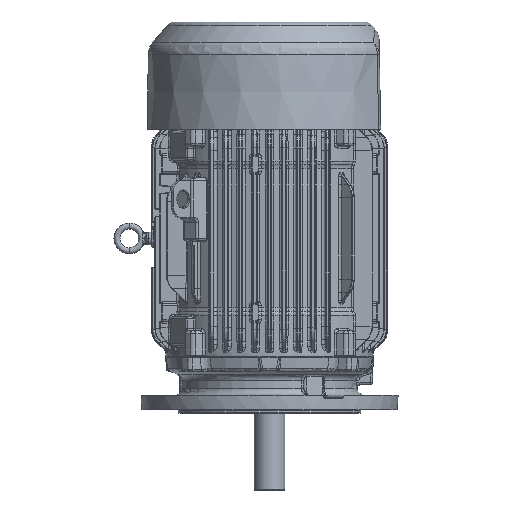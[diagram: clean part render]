
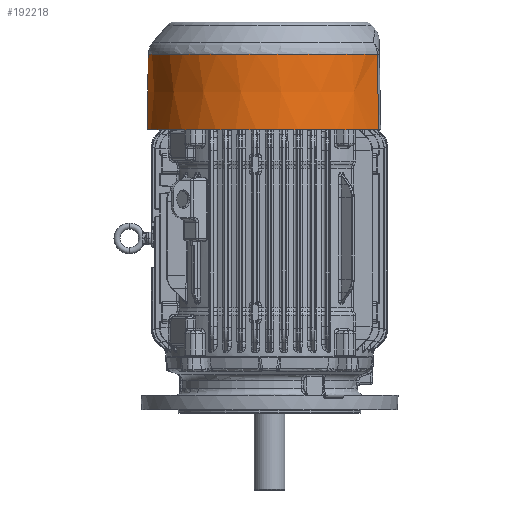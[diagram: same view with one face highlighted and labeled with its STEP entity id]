
A CAD part, left-side view. The second image highlights one B-rep face of the part: STEP entity #192218.
In plain terms, the highlighted conical face has half-angle 1 degrees and reference radius 167.365 mm.
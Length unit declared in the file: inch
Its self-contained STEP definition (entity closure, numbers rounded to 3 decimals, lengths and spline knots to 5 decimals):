
#187761=CARTESIAN_POINT('',(-3.03403,-5.88897,0.));
#187773=CARTESIAN_POINT('',(3.03403,-5.88897,0.));
#187779=CARTESIAN_POINT('',(-3.01954,-5.81673,
-4.05866));
#187780=CARTESIAN_POINT('',(-3.02114,-5.82466,
-3.61342));
#187781=CARTESIAN_POINT('',(-3.02432,-5.84054,
-2.72004));
#187782=CARTESIAN_POINT('',(-3.02887,-5.86323,
-1.44622));
#187783=CARTESIAN_POINT('',(-3.03228,-5.88023,
-0.49136));
#187784=CARTESIAN_POINT('',(-3.03403,-5.88897,0.));
#187786=CARTESIAN_POINT('',(0.,0.,-4.05866));
#187787=DIRECTION('',(0.,0.,-1.));
#187788=DIRECTION('',(-0.461,-0.888,0.));
#187789=AXIS2_PLACEMENT_3D('',#187786,#187787,#187788);
#187791=CARTESIAN_POINT('',(3.03403,-5.88897,0.));
#187792=CARTESIAN_POINT('',(3.03294,-5.88351,
-0.30688));
#187793=CARTESIAN_POINT('',(3.0307,-5.87235,
-0.93391));
#187794=CARTESIAN_POINT('',(3.02724,-5.85507,
-1.90456));
#187795=CARTESIAN_POINT('',(3.02356,-5.83673,
-2.93437));
#187796=CARTESIAN_POINT('',(3.0209,-5.82353,
-3.67562));
#187797=CARTESIAN_POINT('',(3.01953,-5.81671,
-4.05866));
#187799=CARTESIAN_POINT('',(0.,0.,0.));
#187800=DIRECTION('',(0.,0.,1.));
#187801=DIRECTION('',(0.458,-0.889,0.));
#187802=AXIS2_PLACEMENT_3D('',#187799,#187800,#187801);
#191227=VERTEX_POINT('',#187761);
#191230=VERTEX_POINT('',#187779);
#191237=CARTESIAN_POINT('',(3.01945,-5.81676,
-4.05866));
#191238=VERTEX_POINT('',#191237);
#191240=VERTEX_POINT('',#187773);
#192206=CARTESIAN_POINT('',(0.,0.,-2.02933));
#192207=DIRECTION('',(0.,0.,1.));
#192208=DIRECTION('',(0.,1.,0.));
#192209=AXIS2_PLACEMENT_3D('',#192206,#192207,#192208);
#192210=CONICAL_SURFACE('',#192209,6.58918,1.);
#192211=ORIENTED_EDGE('',*,*,#192187,.F.);
#192212=ORIENTED_EDGE('',*,*,#192065,.T.);
#192214=ORIENTED_EDGE('',*,*,#192213,.F.);
#192215=ORIENTED_EDGE('',*,*,#192198,.T.);
#192216=EDGE_LOOP('',(#192211,#192212,#192214,#192215));
#192217=FACE_OUTER_BOUND('',#192216,.F.);
#192218=ADVANCED_FACE('',(#192217),#192210,.T.);
#187785=B_SPLINE_CURVE_WITH_KNOTS('',3,(#187779,#187780,#187781,#187782,#187783,
#187784),.UNSPECIFIED.,.F.,.F.,(4,1,1,4),(0.,0.33333,
0.66667,1.),.UNSPECIFIED.);
#187790=CIRCLE('',#187789,6.55376);
#187798=B_SPLINE_CURVE_WITH_KNOTS('',3,(#187791,#187792,#187793,#187794,#187795,
#187796,#187797),.UNSPECIFIED.,.F.,.F.,(4,1,1,1,4),(0.,0.25,0.5,0.75,
1.),.UNSPECIFIED.);
#187803=CIRCLE('',#187802,6.6246);
#192065=EDGE_CURVE('',#191230,#191238,#187790,.T.);
#192187=EDGE_CURVE('',#191230,#191227,#187785,.T.);
#192198=EDGE_CURVE('',#191240,#191227,#187803,.T.);
#192213=EDGE_CURVE('',#191240,#191238,#187798,.T.);
